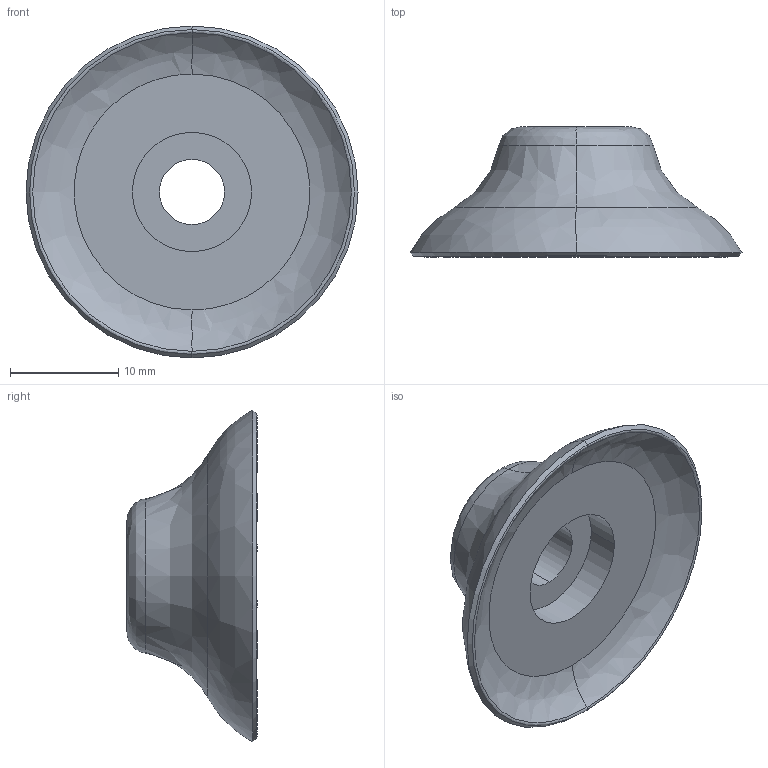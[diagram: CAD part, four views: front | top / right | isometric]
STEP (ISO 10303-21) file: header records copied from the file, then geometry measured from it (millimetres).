
FILE_DESCRIPTION (( 'STEP AP214' ), '1' );
FILE_NAME ('PFG-30.STEP', '2023-03-07T05:49:06', ( 'Windows User' ), ( 'P R C' ), 'SwSTEP 2.0', 'SolidWorks 2019', '' );
FILE_SCHEMA (( 'AUTOMOTIVE_DESIGN' ));
Length unit declared in the file: millimetre
Products named in the file (1): PFG-30
Bounding box: 30.64 x 12 x 30.64 mm (x, y, z)
Volume: 2683.9 mm3; surface area: 2080.6 mm2
Topology: 1 solids, 1 shells, 19 faces, 38 edges, 22 vertices
Faces by surface type: bspline 10, cylinder 4, plane 3, cone 2
Entity records: 638 total; most frequent: CARTESIAN_POINT 272, ORIENTED_EDGE 76, DIRECTION 62, EDGE_CURVE 38, AXIS2_PLACEMENT_3D 28, EDGE_LOOP 22, VERTEX_POINT 22, FACE_OUTER_BOUND 19
